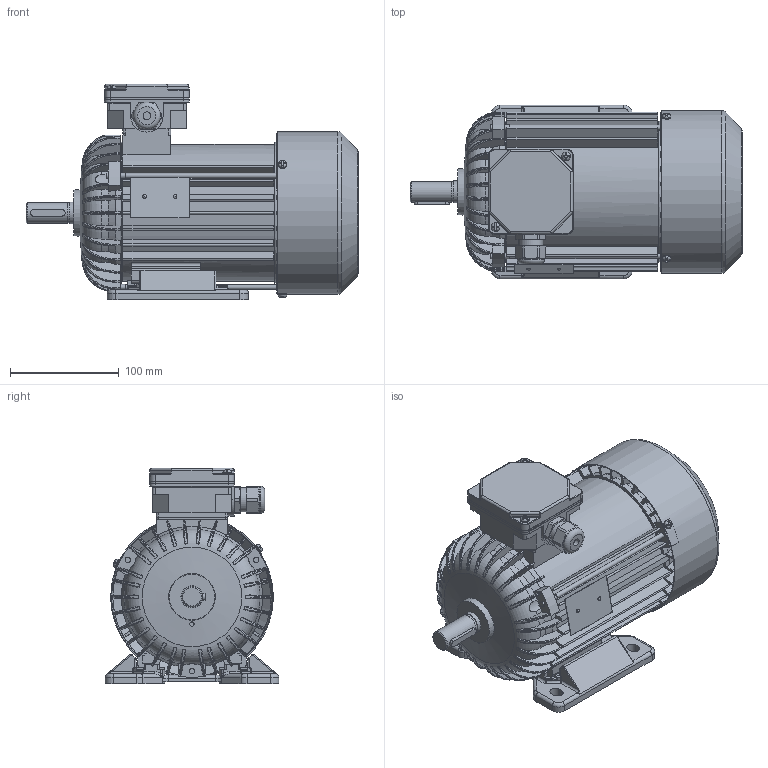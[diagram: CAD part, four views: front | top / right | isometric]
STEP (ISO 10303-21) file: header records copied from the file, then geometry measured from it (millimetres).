
FILE_DESCRIPTION(/* description */ ('Unknown'),/* implementation_level */ '2;1');
FILE_NAME(/* name */ '2SIE80-8A',/* time_stamp */ '2021-04-12T14:53:20+02:00',/* author */ ('Unknown'),/* organization */ ('Unknown'),/* preprocessor_version */ 'ST-DEVELOPER v16.7',/* originating_system */ 'Solid Edge',/* authorisation */ 'Unknown');
FILE_SCHEMA (('AUTOMOTIVE_DESIGN {1 0 10303 214 3 1 1}'));
Length unit declared in the file: millimetre
Products named in the file (1): 2SIE80-8A
Bounding box: 305.79 x 160 x 198.5 mm (x, y, z)
Volume: 1010007.8 mm3; surface area: 565569.8 mm2
Topology: 4 solids, 4 shells, 2885 faces, 8144 edges, 5242 vertices
Faces by surface type: plane 1367, cylinder 935, torus 208, bspline 204, cone 151, sphere 20
Full cylindrical faces by diameter (mm): 2 x2, 2.4 x2, 3 x1, 3.7 x8, 4 x4, 4.5 x1, 4.6 x3, 4.8 x2, 5 x8, 5.5 x3, 6.5 x4, 7 x1, 8 x9, 18.598 x1, 18.998 x1, 19.298 x1, 19.498 x1, 19.898 x1, 19.948 x1, 19.998 x2, 20.4 x2, 22.3 x1, 25 x1, 25.497 x1, 25.647 x1, 25.997 x3, 26.047 x1, 28.799 x4, 34 x2, 38.198 x4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
Entity records: 118282 total; most frequent: CARTESIAN_POINT 27786, ORIENTED_EDGE 15532, DIRECTION 14244, EDGE_CURVE 7766, AXIS2_PLACEMENT_3D 5210, VERTEX_POINT 5120, LINE 3824, VECTOR 3824
